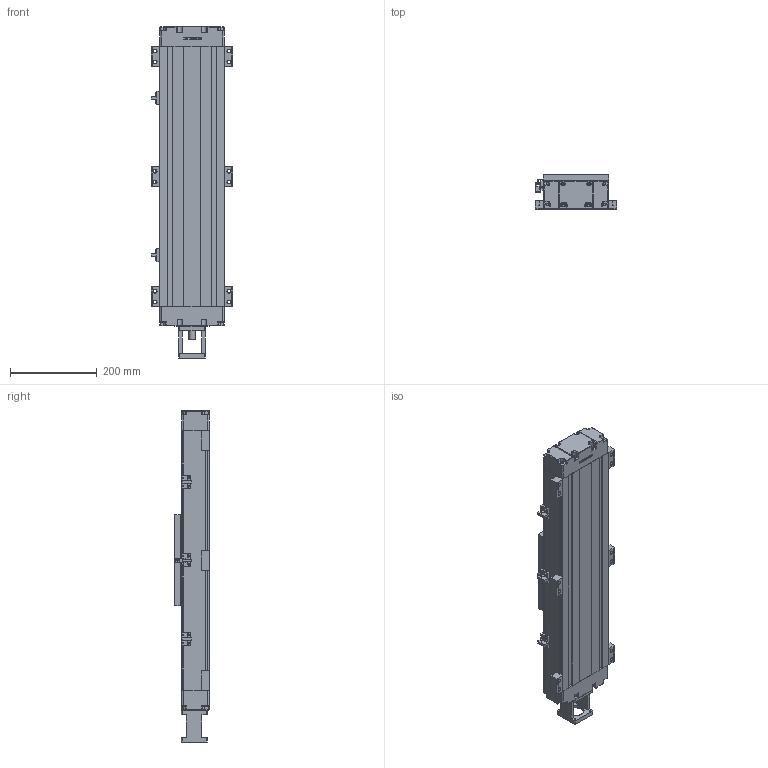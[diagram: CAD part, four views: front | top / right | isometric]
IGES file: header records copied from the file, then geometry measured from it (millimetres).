
Start section: SolidWorks IGES file using analytic representation for surfaces
Bounding box: 189 x 80 x 766 mm (x, y, z)
Surface area: 789058.6 mm2 (no closed solid volume)
Topology: 0 solids, 0 shells, 1198 faces, 14574 edges, 14484 vertices
Faces by surface type: bspline 739, revolution 459
